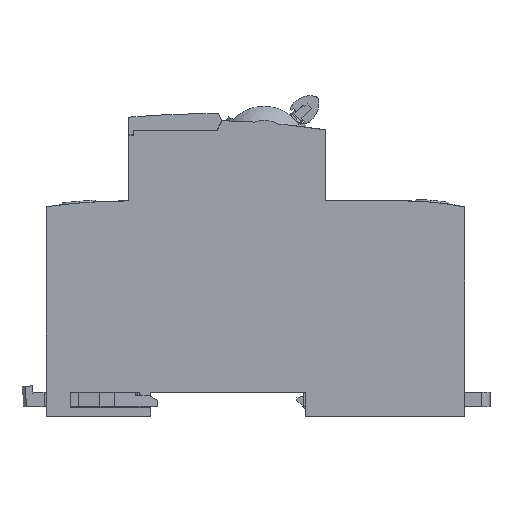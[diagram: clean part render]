
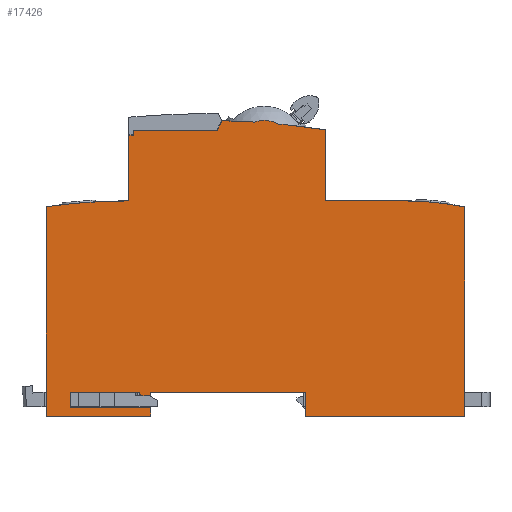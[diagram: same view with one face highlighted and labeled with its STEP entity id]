
A CAD part, left-side view. The second image highlights one B-rep face of the part: STEP entity #17426.
In plain terms, the highlighted planar face has unit normal (-1, 0, 0).
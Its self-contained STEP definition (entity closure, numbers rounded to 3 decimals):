
#14160=CARTESIAN_POINT('',(0.,82.7,-85.804));
#14161=DIRECTION('',(-1.,0.,0.));
#14162=DIRECTION('',(0.,0.,1.));
#14163=AXIS2_PLACEMENT_3D('',#14160,#14161,#14162);
#14193=DIRECTION('',(0.,0.,1.));
#14194=VECTOR('',#14193,47.971);
#14195=CARTESIAN_POINT('',(0.,101.6,0.));
#14196=LINE('',#14195,#14194);
#14197=DIRECTION('',(0.,-1.,0.));
#14198=VECTOR('',#14197,1.1);
#14199=CARTESIAN_POINT('',(0.,82.7,64.3));
#14200=LINE('',#14199,#14198);
#14201=DIRECTION('',(0.,0.,1.));
#14202=VECTOR('',#14201,1.2);
#14203=CARTESIAN_POINT('',(0.,81.6,64.3));
#14204=LINE('',#14203,#14202);
#14205=DIRECTION('',(0.,-1.,0.));
#14206=VECTOR('',#14205,19.121);
#14207=CARTESIAN_POINT('',(0.,81.6,65.5));
#14208=LINE('',#14207,#14206);
#14209=CARTESIAN_POINT('',(0.,63.85,-92.35));
#14210=DIRECTION('',(1.,0.,0.));
#14211=DIRECTION('',(0.,-0.016,1.));
#14212=AXIS2_PLACEMENT_3D('',#14209,#14210,#14211);
#14214=DIRECTION('',(0.,0.,-1.));
#14215=VECTOR('',#14214,16.199);
#14216=CARTESIAN_POINT('',(0.,37.7,65.499));
#14217=LINE('',#14216,#14215);
#14218=DIRECTION('',(0.,0.,-1.));
#14219=VECTOR('',#14218,47.925);
#14220=CARTESIAN_POINT('',(0.,5.8,47.925));
#14221=LINE('',#14220,#14219);
#14222=DIRECTION('',(0.,0.,1.));
#14223=VECTOR('',#14222,5.5);
#14224=CARTESIAN_POINT('',(0.,42.2,0.));
#14225=LINE('',#14224,#14223);
#14226=DIRECTION('',(0.,1.,0.));
#14227=VECTOR('',#14226,35.5);
#14228=CARTESIAN_POINT('',(0.,42.2,5.5));
#14229=LINE('',#14228,#14227);
#14230=DIRECTION('',(0.,0.,1.));
#14231=VECTOR('',#14230,0.8);
#14232=CARTESIAN_POINT('',(0.,77.7,4.7));
#14233=LINE('',#14232,#14231);
#14234=DIRECTION('',(0.,-1.,0.));
#14235=VECTOR('',#14234,2.);
#14236=CARTESIAN_POINT('',(0.,79.7,4.7));
#14237=LINE('',#14236,#14235);
#14238=CARTESIAN_POINT('',(0.,79.7,5.2));
#14239=DIRECTION('',(-1.,0.,0.));
#14240=DIRECTION('',(0.,1.,0.));
#14241=AXIS2_PLACEMENT_3D('',#14238,#14239,#14240);
#14243=DIRECTION('',(0.,0.,-1.));
#14244=VECTOR('',#14243,0.3);
#14245=CARTESIAN_POINT('',(0.,80.2,5.5));
#14246=LINE('',#14245,#14244);
#14247=DIRECTION('',(0.,0.,1.));
#14248=VECTOR('',#14247,3.5);
#14249=CARTESIAN_POINT('',(0.,96.1,2.));
#14250=LINE('',#14249,#14248);
#14259=DIRECTION('',(0.,0.,-1.));
#14260=VECTOR('',#14259,15.);
#14261=CARTESIAN_POINT('',(0.,82.7,64.3));
#14262=LINE('',#14261,#14260);
#14741=CARTESIAN_POINT('',(0.,19.7,-21.638));
#14742=DIRECTION('',(-1.,0.,0.));
#14743=DIRECTION('',(0.,-0.196,0.981));
#14744=AXIS2_PLACEMENT_3D('',#14741,#14742,#14743);
#14773=DIRECTION('',(0.,1.,0.));
#14774=VECTOR('',#14773,18.);
#14775=CARTESIAN_POINT('',(0.,19.7,49.3));
#14776=LINE('',#14775,#14774);
#14798=CARTESIAN_POINT('',(0.,63.85,-92.35));
#14799=DIRECTION('',(-1.,0.,0.));
#14800=DIRECTION('',(0.,-0.163,0.987));
#14801=AXIS2_PLACEMENT_3D('',#14798,#14799,#14800);
#15006=CARTESIAN_POINT('',(0.,51.7,61.4));
#15007=DIRECTION('',(1.,0.,0.));
#15008=DIRECTION('',(0.,0.346,0.938));
#15009=AXIS2_PLACEMENT_3D('',#15006,#15007,#15008);
#15229=DIRECTION('',(0.,0.5,-0.866));
#15230=VECTOR('',#15229,2.458);
#15231=CARTESIAN_POINT('',(0.,61.25,67.629));
#15232=LINE('',#15231,#15230);
#15368=DIRECTION('',(0.,-1.,0.));
#15369=VECTOR('',#15368,15.9);
#15370=CARTESIAN_POINT('',(0.,96.1,5.5));
#15371=LINE('',#15370,#15369);
#15504=DIRECTION('',(0.,0.,1.));
#15505=VECTOR('',#15504,2.);
#15506=CARTESIAN_POINT('',(0.,77.7,0.));
#15507=LINE('',#15506,#15505);
#15544=DIRECTION('',(0.,-1.,0.));
#15545=VECTOR('',#15544,23.9);
#15546=CARTESIAN_POINT('',(0.,101.6,0.));
#15547=LINE('',#15546,#15545);
#15576=DIRECTION('',(0.,1.,0.));
#15577=VECTOR('',#15576,18.4);
#15578=CARTESIAN_POINT('',(0.,77.7,2.));
#15579=LINE('',#15578,#15577);
#15658=DIRECTION('',(0.,-1.,0.));
#15659=VECTOR('',#15658,36.4);
#15660=CARTESIAN_POINT('',(0.,42.2,0.));
#15661=LINE('',#15660,#15659);
#16284=CARTESIAN_POINT('',(0.,61.25,67.629));
#16286=VERTEX_POINT('',#16284);
#16297=CARTESIAN_POINT('',(0.,53.89,67.34));
#16298=CARTESIAN_POINT('',(0.,48.604,66.922));
#16299=VERTEX_POINT('',#16297);
#16300=VERTEX_POINT('',#16298);
#16314=CARTESIAN_POINT('',(0.,82.7,64.3));
#16315=CARTESIAN_POINT('',(0.,81.6,64.3));
#16316=VERTEX_POINT('',#16314);
#16317=VERTEX_POINT('',#16315);
#16384=CARTESIAN_POINT('',(0.,81.6,65.5));
#16385=VERTEX_POINT('',#16384);
#16390=CARTESIAN_POINT('',(0.,62.479,65.5));
#16391=VERTEX_POINT('',#16390);
#16406=CARTESIAN_POINT('',(0.,82.7,49.3));
#16407=VERTEX_POINT('',#16406);
#16577=CARTESIAN_POINT('',(0.,19.7,49.3));
#16579=VERTEX_POINT('',#16577);
#16584=CARTESIAN_POINT('',(0.,37.7,49.3));
#16585=VERTEX_POINT('',#16584);
#16768=CARTESIAN_POINT('',(0.,42.2,0.));
#16769=VERTEX_POINT('',#16768);
#16792=CARTESIAN_POINT('',(0.,77.7,2.));
#16794=VERTEX_POINT('',#16792);
#16820=CARTESIAN_POINT('',(0.,96.1,2.));
#16821=VERTEX_POINT('',#16820);
#16826=CARTESIAN_POINT('',(0.,96.1,5.5));
#16827=VERTEX_POINT('',#16826);
#16828=CARTESIAN_POINT('',(0.,80.2,5.2));
#16829=CARTESIAN_POINT('',(0.,79.7,4.7));
#16830=VERTEX_POINT('',#16828);
#16831=VERTEX_POINT('',#16829);
#16832=CARTESIAN_POINT('',(0.,77.7,4.7));
#16833=VERTEX_POINT('',#16832);
#16868=CARTESIAN_POINT('',(0.,80.2,5.5));
#16869=VERTEX_POINT('',#16868);
#16870=CARTESIAN_POINT('',(0.,77.7,5.5));
#16871=VERTEX_POINT('',#16870);
#16872=CARTESIAN_POINT('',(0.,42.2,5.5));
#16873=VERTEX_POINT('',#16872);
#17010=CARTESIAN_POINT('',(0.,5.8,0.));
#17012=VERTEX_POINT('',#17010);
#17015=CARTESIAN_POINT('',(0.,5.8,47.925));
#17017=VERTEX_POINT('',#17015);
#17018=CARTESIAN_POINT('',(0.,77.7,0.));
#17020=VERTEX_POINT('',#17018);
#17023=CARTESIAN_POINT('',(0.,101.6,0.));
#17025=VERTEX_POINT('',#17023);
#17026=CARTESIAN_POINT('',(0.,101.6,47.971));
#17028=VERTEX_POINT('',#17026);
#17031=CARTESIAN_POINT('',(0.,37.7,65.499));
#17033=VERTEX_POINT('',#17031);
#17369=CARTESIAN_POINT('',(0.,77.7,5.5));
#17370=DIRECTION('',(1.,0.,0.));
#17371=DIRECTION('',(0.,1.,0.));
#17372=AXIS2_PLACEMENT_3D('',#17369,#17370,#17371);
#17373=PLANE('',#17372);
#17374=ORIENTED_EDGE('',*,*,#17329,.T.);
#17375=ORIENTED_EDGE('',*,*,#17357,.F.);
#17377=ORIENTED_EDGE('',*,*,#17376,.F.);
#17379=ORIENTED_EDGE('',*,*,#17378,.T.);
#17381=ORIENTED_EDGE('',*,*,#17380,.T.);
#17383=ORIENTED_EDGE('',*,*,#17382,.T.);
#17385=ORIENTED_EDGE('',*,*,#17384,.F.);
#17387=ORIENTED_EDGE('',*,*,#17386,.T.);
#17389=ORIENTED_EDGE('',*,*,#17388,.T.);
#17391=ORIENTED_EDGE('',*,*,#17390,.F.);
#17393=ORIENTED_EDGE('',*,*,#17392,.T.);
#17395=ORIENTED_EDGE('',*,*,#17394,.F.);
#17397=ORIENTED_EDGE('',*,*,#17396,.F.);
#17399=ORIENTED_EDGE('',*,*,#17398,.T.);
#17401=ORIENTED_EDGE('',*,*,#17400,.F.);
#17403=ORIENTED_EDGE('',*,*,#17402,.T.);
#17405=ORIENTED_EDGE('',*,*,#17404,.T.);
#17407=ORIENTED_EDGE('',*,*,#17406,.F.);
#17409=ORIENTED_EDGE('',*,*,#17408,.F.);
#17411=ORIENTED_EDGE('',*,*,#17410,.F.);
#17413=ORIENTED_EDGE('',*,*,#17412,.F.);
#17415=ORIENTED_EDGE('',*,*,#17414,.F.);
#17417=ORIENTED_EDGE('',*,*,#17416,.F.);
#17419=ORIENTED_EDGE('',*,*,#17418,.F.);
#17421=ORIENTED_EDGE('',*,*,#17420,.F.);
#17423=ORIENTED_EDGE('',*,*,#17422,.F.);
#17424=EDGE_LOOP('',(#17374,#17375,#17377,#17379,#17381,#17383,#17385,#17387,
#17389,#17391,#17393,#17395,#17397,#17399,#17401,#17403,#17405,#17407,#17409,
#17411,#17413,#17415,#17417,#17419,#17421,#17423));
#17425=FACE_OUTER_BOUND('',#17424,.F.);
#14164=CIRCLE('',#14163,135.104);
#14213=CIRCLE('',#14212,160.);
#14242=CIRCLE('',#14241,0.5);
#14745=CIRCLE('',#14744,70.938);
#14802=CIRCLE('',#14801,160.);
#15010=CIRCLE('',#15009,6.331);
#17329=EDGE_CURVE('',#17025,#17028,#14196,.T.);
#17357=EDGE_CURVE('',#16407,#17028,#14164,.T.);
#17376=EDGE_CURVE('',#16316,#16407,#14262,.T.);
#17378=EDGE_CURVE('',#16316,#16317,#14200,.T.);
#17380=EDGE_CURVE('',#16317,#16385,#14204,.T.);
#17382=EDGE_CURVE('',#16385,#16391,#14208,.T.);
#17384=EDGE_CURVE('',#16286,#16391,#15232,.T.);
#17386=EDGE_CURVE('',#16286,#16299,#14213,.T.);
#17388=EDGE_CURVE('',#16299,#16300,#15010,.T.);
#17390=EDGE_CURVE('',#17033,#16300,#14802,.T.);
#17392=EDGE_CURVE('',#17033,#16585,#14217,.T.);
#17394=EDGE_CURVE('',#16579,#16585,#14776,.T.);
#17396=EDGE_CURVE('',#17017,#16579,#14745,.T.);
#17398=EDGE_CURVE('',#17017,#17012,#14221,.T.);
#17400=EDGE_CURVE('',#16769,#17012,#15661,.T.);
#17402=EDGE_CURVE('',#16769,#16873,#14225,.T.);
#17404=EDGE_CURVE('',#16873,#16871,#14229,.T.);
#17406=EDGE_CURVE('',#16833,#16871,#14233,.T.);
#17408=EDGE_CURVE('',#16831,#16833,#14237,.T.);
#17410=EDGE_CURVE('',#16830,#16831,#14242,.T.);
#17412=EDGE_CURVE('',#16869,#16830,#14246,.T.);
#17414=EDGE_CURVE('',#16827,#16869,#15371,.T.);
#17416=EDGE_CURVE('',#16821,#16827,#14250,.T.);
#17418=EDGE_CURVE('',#16794,#16821,#15579,.T.);
#17420=EDGE_CURVE('',#17020,#16794,#15507,.T.);
#17422=EDGE_CURVE('',#17025,#17020,#15547,.T.);
#17426=ADVANCED_FACE('',(#17425),#17373,.F.);
